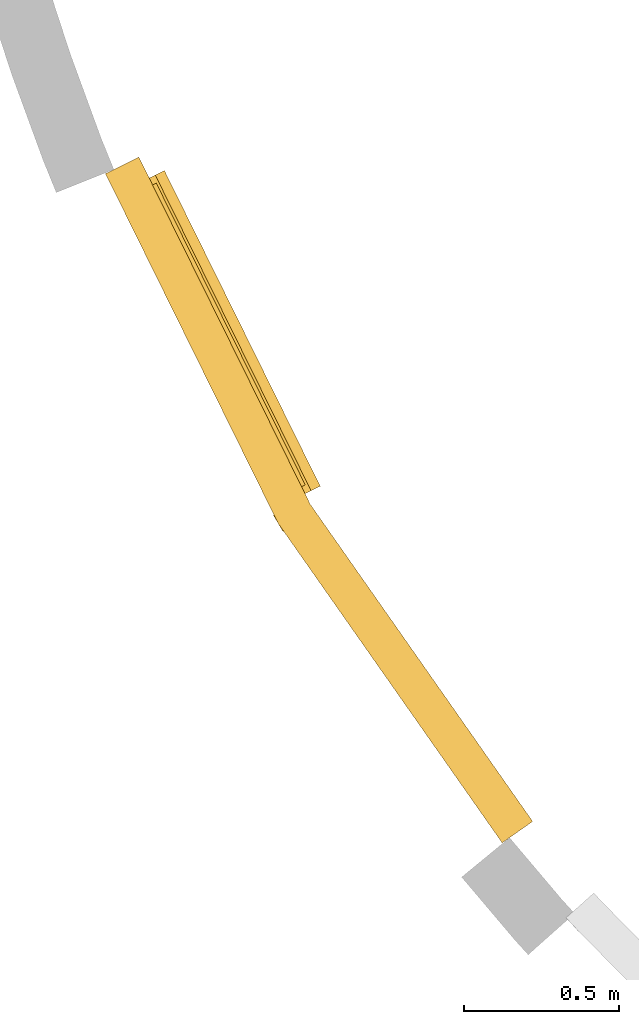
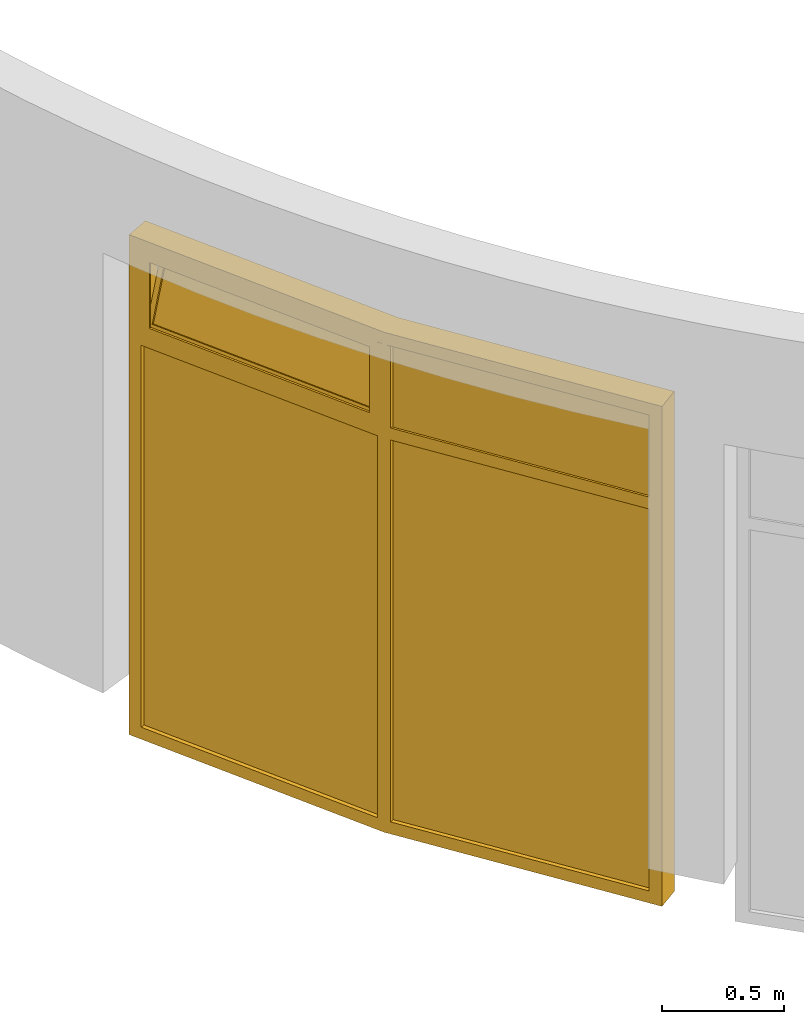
# One storey, part 3 of 7: 1 curtain wall.
"""IFC4 building model written with IfcOpenShell, lengths in millimetres."""

import ifcopenshell
import ifcopenshell.guid

model = None  # the IFC model being written
_history = None  # IfcOwnerHistory: only IFC2X3 demands one
_inside = {}  # id of a spatial element -> (the spatial element, [elements in it])
_under = {}  # id of a project, library or spatial element -> (it, [spatial elements below it])
_declared = {}  # id of a project -> (the project, [libraries it declares])
_typed = {}  # id of a type object -> (the type object, [elements of that type])
_made_of = {}  # id of a material, layer set ... -> (it, [elements and type objects made of it])


def new_model(schema):
    """Start an empty IFC model of exactly this schema.

    Asked for "IFC4X3", IfcOpenShell would pick the latest addendum, in which some entities
    have other attributes; the version numbers below select the first issue.
    IFC2X3 requires an IfcOwnerHistory on every rooted entity: one is made here for all.
    """
    global model, _history
    if schema == "IFC4X3":
        model = ifcopenshell.file(schema_version=(4, 3, 0, 0))
    else:
        model = ifcopenshell.file(schema=schema)
    _inside.clear()
    _under.clear()
    _declared.clear()
    _typed.clear()
    _made_of.clear()
    _history = None
    if model.schema == "IFC2X3":
        org = make("IfcOrganization", Name="unknown")
        user = make(
            "IfcPersonAndOrganization",
            ThePerson=make("IfcPerson", FamilyName="unknown"),
            TheOrganization=org,
        )
        app = make(
            "IfcApplication",
            ApplicationDeveloper=org,
            Version="unknown",
            ApplicationFullName="unknown",
            ApplicationIdentifier="unknown",
        )
        _history = make(
            "IfcOwnerHistory",
            OwningUser=user,
            OwningApplication=app,
            ChangeAction="ADDED",
            CreationDate=0,
        )
    return model


def make(cls, **values):
    """One entity of the class cls with the attributes given. An attribute that is None is left unset."""
    return model.create_entity(
        cls, **{name: value for name, value in values.items() if value is not None}
    )


def entity(cls, *values):
    """Any entity or typed value of the class cls, its attributes in the order of the schema. None: left unset."""
    e = model.create_entity(cls)
    for i, value in enumerate(values):
        if value is not None:
            e[i] = value
    return e


def rooted(cls, **values):
    """An entity with a GlobalId (a new one), such as an element, a storey or a relation."""
    return make(cls, GlobalId=ifcopenshell.guid.new(), OwnerHistory=_history, **values)


def si_unit(unit_type, name, prefix=None):
    """IfcSIUnit, for example si_unit("LENGTHUNIT", "METRE", prefix="MILLI")."""
    return make("IfcSIUnit", UnitType=unit_type, Prefix=prefix, Name=name)


def converted_unit(unit_type, name, factor, base, dimensions=None, offset=None):
    """IfcConversionBasedUnit, such as the inch: factor (a typed value) times the base unit."""
    return make(
        "IfcConversionBasedUnit"
        if offset is None
        else "IfcConversionBasedUnitWithOffset",
        ConversionOffset=offset,
        Dimensions=None
        if dimensions is None
        else entity("IfcDimensionalExponents", *dimensions),
        UnitType=unit_type,
        Name=name,
        ConversionFactor=make(
            "IfcMeasureWithUnit", ValueComponent=factor, UnitComponent=base
        ),
    )


def derived_unit(unit_type, elements):
    """IfcDerivedUnit: a product of units, each with its exponent."""
    return make(
        "IfcDerivedUnit",
        Elements=[
            make("IfcDerivedUnitElement", Unit=unit, Exponent=power)
            for unit, power in elements
        ],
        UnitType=unit_type,
    )


def assignment(units):
    """IfcUnitAssignment: the units of a project."""
    return None if units is None else make("IfcUnitAssignment", Units=units)


def point(xyz):
    """IfcCartesianPoint."""
    return None if xyz is None else make("IfcCartesianPoint", Coordinates=xyz)


def direction(xyz):
    """IfcDirection."""
    return None if xyz is None else make("IfcDirection", DirectionRatios=xyz)


def frame(location, z_axis=None, x_axis=None):
    """IfcAxis2Placement3D, a coordinate frame: its origin and axes. An axis left out is left unset."""
    return make(
        "IfcAxis2Placement3D",
        Location=point(location),
        Axis=direction(z_axis),
        RefDirection=direction(x_axis),
    )


def origin_with_axes():
    """The frame at (0, 0, 0) with the z axis (0, 0, 1) and the x axis (1, 0, 0) written out."""
    return frame((0.0, 0.0, 0.0), z_axis=(0.0, 0.0, 1.0), x_axis=(1.0, 0.0, 0.0))


def place(relative_to, where):
    """IfcLocalPlacement: puts the frame where relative to a parent placement (None: the world)."""
    return make(
        "IfcLocalPlacement", PlacementRelTo=relative_to, RelativePlacement=where
    )


def context(
    kind, dimensions, precision=None, world=None, true_north=None, identifier=None
):
    """IfcGeometricRepresentationContext, for example the 3D "Model" context."""
    return make(
        "IfcGeometricRepresentationContext",
        ContextIdentifier=identifier,
        ContextType=kind,
        CoordinateSpaceDimension=dimensions,
        Precision=precision,
        WorldCoordinateSystem=world,
        TrueNorth=true_north,
    )


def subcontext(parent, identifier, kind, view, scale=None):
    """IfcGeometricRepresentationSubContext, for example "Body" below "Model"."""
    return make(
        "IfcGeometricRepresentationSubContext",
        ContextIdentifier=identifier,
        ContextType=kind,
        ParentContext=parent,
        TargetScale=scale,
        TargetView=view,
    )


def project(units=None, contexts=None):
    """IfcProject with its units and contexts."""
    return rooted(
        "IfcProject",
        Name="project",
        RepresentationContexts=contexts,
        UnitsInContext=assignment(units),
    )


def spatial(cls, under=None, at=None, **own):
    """A site, building, storey or space (cls), placed at a placement, below another one or the project."""
    s = rooted(cls, ObjectPlacement=at, **own)
    if under is not None:
        _under.setdefault(under.id(), (under, []))[1].append(s)
    return s


def point_list(points):
    """IfcCartesianPointList2D or 3D."""
    cls = (
        "IfcCartesianPointList2D" if len(points[0]) == 2 else "IfcCartesianPointList3D"
    )
    return make(cls, CoordList=points)


def polygons(points, faces, closed=None, point_numbers=None):
    """IfcPolygonalFaceSet: a face is its outer loop, then its inner loops; points numbered from 1."""
    made = []
    for loops in faces:
        if len(loops) == 1:
            made.append(make("IfcIndexedPolygonalFace", CoordIndex=loops[0]))
        else:
            made.append(
                make(
                    "IfcIndexedPolygonalFaceWithVoids",
                    CoordIndex=loops[0],
                    InnerCoordIndices=loops[1:],
                )
            )
    return make(
        "IfcPolygonalFaceSet",
        Coordinates=point_list(points),
        Closed=closed,
        Faces=made,
        PnIndex=point_numbers,
    )


def shape(context_of_items, identifier, shape_type, items):
    """IfcShapeRepresentation: the items that make up one representation, for example the "Body"."""
    return make(
        "IfcShapeRepresentation",
        ContextOfItems=context_of_items,
        RepresentationIdentifier=identifier,
        RepresentationType=shape_type,
        Items=items,
    )


def material(Name=None, Category=None):
    """IfcMaterial."""
    return make("IfcMaterial", Name=Name, Category=Category)


def constituent(of_material, Name=None, Category=None, fraction=None):
    """IfcMaterialConstituent: one of the materials an element consists of."""
    return make(
        "IfcMaterialConstituent",
        Name=Name,
        Material=of_material,
        Fraction=fraction,
        Category=Category,
    )


def constituent_set(constituents=None, Name=None):
    """IfcMaterialConstituentSet."""
    return make(
        "IfcMaterialConstituentSet", Name=Name, MaterialConstituents=constituents
    )


def made_of(thing, what):
    """Note that an element or type object is made of a material, layer set ...; save() writes the relation."""
    if what is not None:
        _made_of.setdefault(what.id(), (what, []))[1].append(thing)
    return thing


def type_object(cls, material=None, **own):
    """A type object (cls), such as IfcWallType, which elements share."""
    return made_of(rooted(cls, **own), material)


def element(
    cls,
    number,
    at=None,
    inside=None,
    cuts=None,
    type_object=None,
    material=None,
    context=None,
    identifier="Body",
    shape_type=None,
    held_by="IfcProductDefinitionShape",
    body=None,
    shapes=None,
    **own,
):
    """One element of the class cls, such as IfcWall. Its Tag is "e" and its number.

    at: its placement. inside: the storey or other place that contains it. cuts: it is an
    opening in that element (IfcRelVoidsElement). A single representation is given by context,
    identifier, shape_type and body (its items); several are given by shapes. held_by: the class
    of the entity that holds the representations. save() writes the other relations.
    """
    e = rooted(cls, Tag="e%d" % number, ObjectPlacement=at, **own)
    if body is not None:
        shapes = [shape(context, identifier, shape_type, body)]
    if shapes is not None:
        e.Representation = make(held_by, Representations=shapes)
    if inside is not None:
        _inside.setdefault(inside.id(), (inside, []))[1].append(e)
    if cuts is not None:
        rooted(
            "IfcRelVoidsElement", RelatingBuildingElement=cuts, RelatedOpeningElement=e
        )
    if type_object is not None:
        _typed.setdefault(type_object.id(), (type_object, []))[1].append(e)
    return made_of(e, material)


def aggregate(whole, parts):
    """IfcRelAggregates: a whole, such as a stair, and the parts it consists of."""
    return rooted("IfcRelAggregates", RelatingObject=whole, RelatedObjects=parts)


def save(model, path):
    """Write the relations noted so far, then the file.

    IfcRelAggregates (storeys below a building ...), IfcRelContainedInSpatialStructure (elements
    in a storey), IfcRelDefinesByType, IfcRelAssociatesMaterial and IfcRelDeclares: one each for
    every whole, place, type object, material and project.
    """
    for whole, parts in _under.values():
        aggregate(whole, parts)
    for where, things in _inside.values():
        rooted(
            "IfcRelContainedInSpatialStructure",
            RelatedElements=things,
            RelatingStructure=where,
        )
    for kind, things in _typed.values():
        rooted("IfcRelDefinesByType", RelatedObjects=things, RelatingType=kind)
    for what, things in _made_of.values():
        rooted("IfcRelAssociatesMaterial", RelatedObjects=things, RelatingMaterial=what)
    for by, libraries in _declared.values():
        rooted("IfcRelDeclares", RelatingContext=by, RelatedDefinitions=libraries)
    model.write(path)


model = new_model("IFC4")

# Units and contexts
model_context = context("Model", 3, precision=0.01, world=origin_with_axes(), true_north=direction((0.0, 1.0)))
body_context = subcontext(model_context, "Body", "Model", "MODEL_VIEW")
ifc_project = project(units=[si_unit("LENGTHUNIT", "METRE", prefix="MILLI"), si_unit("AREAUNIT", "SQUARE_METRE"), si_unit("VOLUMEUNIT", "CUBIC_METRE"), converted_unit("PLANEANGLEUNIT", "DEGREE", entity("IfcPlaneAngleMeasure", 0.0174532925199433), si_unit("PLANEANGLEUNIT", "RADIAN"), dimensions=[0, 0, 0, 0, 0, 0, 0]), converted_unit("TIMEUNIT", "Year", entity("IfcTimeMeasure", 31557600.0), si_unit("TIMEUNIT", "SECOND"), dimensions=[0, 0, 1, 0, 0, 0, 0]), si_unit("MASSUNIT", "GRAM", prefix="KILO"), si_unit("THERMODYNAMICTEMPERATUREUNIT", "DEGREE_CELSIUS"), si_unit("LUMINOUSINTENSITYUNIT", "LUMEN"), si_unit("ENERGYUNIT", "JOULE", prefix="MEGA"), derived_unit("THERMALCONDUCTANCEUNIT", [(si_unit("POWERUNIT", "WATT"), 1), (si_unit("LENGTHUNIT", "METRE"), -1), (si_unit("THERMODYNAMICTEMPERATUREUNIT", "KELVIN"), -1)]), derived_unit("SPECIFICHEATCAPACITYUNIT", [(si_unit("ENERGYUNIT", "JOULE"), 1), (si_unit("MASSUNIT", "GRAM", prefix="KILO"), -1), (si_unit("THERMODYNAMICTEMPERATUREUNIT", "KELVIN"), -1)]), derived_unit("MASSDENSITYUNIT", [(si_unit("MASSUNIT", "GRAM", prefix="KILO"), 1), (si_unit("VOLUMEUNIT", "CUBIC_METRE"), -1)])], contexts=[model_context])

# Site, building, storey
site_placement = place(None, origin_with_axes())
site = spatial("IfcSite", under=ifc_project, at=site_placement, Name="Exteriér", CompositionType="ELEMENT")
building_placement = place(site_placement, origin_with_axes())
building = spatial("IfcBuilding", under=site, at=building_placement, Name="Univerzitní lezecké centrum", CompositionType="ELEMENT")
storey_placement = place(building_placement, origin_with_axes())
storey = spatial("IfcBuildingStorey", under=building, at=storey_placement, Name="1.NP", CompositionType="ELEMENT", Elevation=0.0)

# Curtain wall
ifc_material_1 = material(Name="Sklo")
ifc_constituent_1 = constituent(ifc_material_1, Name="Sklo 1")
ifc_constituent_2 = constituent(ifc_material_1, Name="Sklo 2")
ifc_constituent_3 = constituent(ifc_material_1, Name="Sklo 3")
ifc_material_2 = material(Name="Hliník")
ifc_constituent_4 = constituent(ifc_material_2, Name="Hliník 1")
ifc_constituent_5 = constituent(ifc_material_1, Name="Sklo 4")
ifc_constituent_6 = constituent(ifc_material_2, Name="Hliník 2")
ifc_constituent_7 = constituent(ifc_material_2, Name="Hliník 3")
ifc_constituent_8 = constituent(ifc_material_2, Name="Hliník 4")
ifc_constituent_9 = constituent(ifc_material_2, Name="Hliník 5")
ifc_constituent_10 = constituent(ifc_material_2, Name="Hliník 6")
ifc_constituent_11 = constituent(ifc_material_2, Name="Hliník 7")
ifc_constituent_12 = constituent(ifc_material_2, Name="Hliník 8")
ifc_constituent_13 = constituent(ifc_material_2, Name="Hliník 9")
ifc_constituent_14 = constituent(ifc_material_2, Name="Hliník 10")
ifc_constituent_15 = constituent(ifc_material_2, Name="Hliník 11")
ifc_constituent_16 = constituent(ifc_material_2, Name="Hliník 12")
ifc_constituent_17 = constituent(ifc_material_2, Name="Hliník 13")
ifc_constituent_set = constituent_set(constituents=[ifc_constituent_1, ifc_constituent_2, ifc_constituent_3, ifc_constituent_4, ifc_constituent_5, ifc_constituent_6, ifc_constituent_7, ifc_constituent_8, ifc_constituent_9, ifc_constituent_10, ifc_constituent_11, ifc_constituent_12, ifc_constituent_13, ifc_constituent_14, ifc_constituent_15, ifc_constituent_16, ifc_constituent_17])
curtain_wall_type = type_object("IfcCurtainWallType", Name="Typ lehkého obvodového pláště", PredefinedType="NOTDEFINED")
curtain_wall_placement = place(storey_placement, frame((-4244.886192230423, -4993.536299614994, 0.0), z_axis=(0.0, 0.0, 1.0), x_axis=(1.0, 0.0, 0.0)))
element("IfcCurtainWall", 1, at=curtain_wall_placement, inside=storey, type_object=curtain_wall_type, material=ifc_constituent_set, Name="LOP01", PredefinedType="NOTDEFINED", context=body_context, shape_type="Tessellation", body=[
    polygons([(-351.6964400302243, 518.8852011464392, 2469.999973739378), (-368.070827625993, 507.4013241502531, 2469.999973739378), (334.521174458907, -494.3956968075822, 2469.999973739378), (350.8955620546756, -482.9118198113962, 2469.999973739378), (-351.6964400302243, 518.8852011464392, 2002.999991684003), (-368.070827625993, 507.4013241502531, 2002.999991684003), (334.521174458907, -494.3956968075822, 2002.999991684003), (350.8955620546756, -482.9118198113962, 2002.999991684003)], [[[1, 2, 3, 4]], [[5, 6, 2, 1]], [[2, 6, 7, 3]], [[4, 3, 7, 8]], [[1, 4, 8, 5]], [[8, 7, 6, 5]]], closed=True),
    polygons([(-351.6964423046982, 518.8852043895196, 1997.00000596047), (-368.0708299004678, 507.4013273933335, 1997.00000596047), (334.5211696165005, -494.3956899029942, 1997.00000596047), (350.8955572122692, -482.9118129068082, 1997.00000596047), (-351.6964423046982, 518.8852043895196, 29.99999999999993), (-368.0708299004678, 507.4013273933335, 29.99999999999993), (334.5211696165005, -494.3956899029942, 30.0), (350.8955572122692, -482.9118129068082, 30.0)], [[[1, 2, 3, 4]], [[5, 6, 2, 1]], [[2, 6, 7, 3]], [[4, 3, 7, 8]], [[1, 4, 8, 5]], [[8, 7, 6, 5]]], closed=True),
    polygons([(-892.6787383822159, 1614.910149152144, 1997.00000596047), (-910.6123102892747, 1606.056505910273, 1997.00000596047), (-368.9399368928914, 508.8674513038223, 1997.00000596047), (-351.0063649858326, 517.7210945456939, 1997.00000596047), (-892.6787383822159, 1614.910149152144, 29.99999999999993), (-910.6123102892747, 1606.056505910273, 29.99999999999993), (-368.9399368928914, 508.8674513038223, 29.99999999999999), (-351.0063649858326, 517.7210945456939, 29.99999999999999)], [[[1, 2, 3, 4]], [[5, 6, 2, 1]], [[2, 6, 7, 3]], [[4, 3, 7, 8]], [[1, 4, 8, 5]], [[8, 7, 6, 5]]], closed=True),
    polygons([(-391.1871885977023, 531.340989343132, 2029.9999915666), (-400.1539745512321, 526.9141677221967, 2029.9999915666), (-915.2654111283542, 1570.302492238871, 2029.9999915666), (-906.2986251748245, 1574.729313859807, 2029.9999915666), (-408.8944750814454, 567.2081331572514, 2069.9999915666), (-417.8612610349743, 562.7813115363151, 2069.9999915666), (-897.5581246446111, 1534.435348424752, 2069.9999915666), (-888.5913386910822, 1538.862170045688, 2069.9999915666)], [[[1, 2, 3, 4]], [[5, 6, 2, 1]], [[2, 6, 7, 3]], [[4, 3, 7, 8]], [[1, 4, 8, 5]], [[8, 7, 6, 5]]], closed=True),
    polygons([(-906.2986251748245, 1574.729313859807, 2029.9999915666), (-915.2654111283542, 1570.302492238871, 2029.9999915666), (-915.2654111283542, 1570.302492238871, 2439.999963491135), (-906.2986251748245, 1574.729313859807, 2439.999963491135), (-888.5913386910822, 1538.862170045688, 2069.9999915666), (-897.5581246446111, 1534.435348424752, 2069.9999915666), (-897.5581246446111, 1534.435348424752, 2399.999963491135), (-888.5913386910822, 1538.862170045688, 2399.999963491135)], [[[1, 2, 3, 4]], [[5, 6, 2, 1]], [[2, 6, 7, 3]], [[4, 3, 7, 8]], [[1, 4, 8, 5]], [[8, 7, 6, 5]]], closed=True),
    polygons([(-391.1871885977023, 531.340989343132, 2439.999963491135), (-400.1539745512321, 526.9141677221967, 2439.999963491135), (-417.8612610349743, 562.7813115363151, 2399.999963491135), (-408.8944750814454, 567.2081331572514, 2399.999963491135), (-906.2986251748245, 1574.729313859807, 2439.999963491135), (-915.2654111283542, 1570.302492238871, 2439.999963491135), (-897.5581246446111, 1534.435348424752, 2399.999963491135), (-888.5913386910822, 1538.862170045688, 2399.999963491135)], [[[1, 2, 3, 4]], [[5, 6, 2, 1]], [[2, 6, 7, 3]], [[4, 3, 7, 8]], [[1, 4, 8, 5]], [[8, 7, 6, 5]]], closed=True),
    polygons([(-391.1871885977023, 531.340989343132, 2029.9999915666), (-400.1539745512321, 526.9141677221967, 2029.9999915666), (-417.8612610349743, 562.7813115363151, 2069.9999915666), (-408.8944750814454, 567.2081331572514, 2069.9999915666), (-391.1871885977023, 531.340989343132, 2439.999963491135), (-400.1539745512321, 526.9141677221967, 2439.999963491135), (-417.8612610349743, 562.7813115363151, 2399.999963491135), (-408.8944750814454, 567.2081331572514, 2399.999963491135)], [[[1, 2, 3, 4]], [[5, 6, 2, 1]], [[2, 6, 7, 3]], [[4, 3, 7, 8]], [[1, 4, 8, 5]], [[8, 7, 6, 5]]], closed=True),
    polygons([(-364.2868307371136, 544.6214542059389, 2029.9999915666), (-391.1871885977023, 531.340989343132, 2029.9999915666), (-906.2986251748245, 1574.729313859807, 2029.9999915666), (-879.3982673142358, 1588.009778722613, 2029.9999915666), (-370.9270631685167, 558.0716331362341, 2044.9999915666), (-397.8274210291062, 544.7911682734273, 2044.9999915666), (-899.6583927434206, 1561.279134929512, 2044.9999915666), (-872.7580348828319, 1574.559599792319, 2044.9999915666)], [[[1, 2, 3, 4]], [[5, 6, 2, 1]], [[2, 6, 7, 3]], [[4, 3, 7, 8]], [[1, 4, 8, 5]], [[8, 7, 6, 5]]], closed=True),
    polygons([(-879.3982673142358, 1588.009778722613, 2029.9999915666), (-906.2986251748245, 1574.729313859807, 2029.9999915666), (-906.2986251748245, 1574.729313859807, 2439.999963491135), (-879.3982673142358, 1588.009778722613, 2439.999963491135), (-872.7580348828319, 1574.559599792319, 2044.9999915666), (-899.6583927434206, 1561.279134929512, 2044.9999915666), (-899.6583927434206, 1561.279134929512, 2424.999963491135), (-872.7580348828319, 1574.559599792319, 2424.999963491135)], [[[1, 2, 3, 4]], [[5, 6, 2, 1]], [[2, 6, 7, 3]], [[4, 3, 7, 8]], [[1, 4, 8, 5]], [[8, 7, 6, 5]]], closed=True),
    polygons([(-364.2868307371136, 544.6214542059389, 2439.999963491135), (-391.1871885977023, 531.340989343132, 2439.999963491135), (-397.8274210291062, 544.7911682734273, 2424.999963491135), (-370.9270631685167, 558.0716331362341, 2424.999963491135), (-879.3982673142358, 1588.009778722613, 2439.999963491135), (-906.2986251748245, 1574.729313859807, 2439.999963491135), (-899.6583927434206, 1561.279134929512, 2424.999963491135), (-872.7580348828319, 1574.559599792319, 2424.999963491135)], [[[1, 2, 3, 4]], [[5, 6, 2, 1]], [[2, 6, 7, 3]], [[4, 3, 7, 8]], [[1, 4, 8, 5]], [[8, 7, 6, 5]]], closed=True),
    polygons([(-364.2868307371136, 544.6214542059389, 2029.9999915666), (-391.1871885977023, 531.340989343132, 2029.9999915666), (-397.8274210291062, 544.7911682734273, 2044.9999915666), (-370.9270631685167, 558.0716331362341, 2044.9999915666), (-364.2868307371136, 544.6214542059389, 2439.999963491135), (-391.1871885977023, 531.340989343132, 2439.999963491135), (-397.8274210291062, 544.7911682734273, 2424.999963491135), (-370.9270631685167, 558.0716331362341, 2424.999963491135)], [[[1, 2, 3, 4]], [[5, 6, 2, 1]], [[2, 6, 7, 3]], [[4, 3, 7, 8]], [[1, 4, 8, 5]], [[8, 7, 6, 5]]], closed=True),
    polygons([(-351.0063613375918, 517.7210871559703, 2002.999991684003), (-368.9399332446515, 508.8674439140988, 2002.999991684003), (-910.6123086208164, 1606.056502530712, 2002.999991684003), (-892.6787367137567, 1614.910145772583, 2002.999991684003), (-364.2868307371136, 544.6214542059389, 2029.9999915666), (-382.2204026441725, 535.7678109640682, 2029.9999915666), (-897.3318392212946, 1579.156135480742, 2029.9999915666), (-879.3982673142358, 1588.009778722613, 2029.9999915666)], [[[1, 2, 3, 4]], [[5, 6, 2, 1]], [[2, 6, 7, 3]], [[4, 3, 7, 8]], [[1, 4, 8, 5]], [[8, 7, 6, 5]]], closed=True),
    polygons([(-892.6787367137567, 1614.910145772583, 2002.999991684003), (-910.6123086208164, 1606.056502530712, 2002.999991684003), (-910.6123086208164, 1606.056502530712, 2469.999973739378), (-892.6787367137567, 1614.910145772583, 2469.999973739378), (-879.3982673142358, 1588.009778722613, 2029.9999915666), (-897.3318392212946, 1579.156135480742, 2029.9999915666), (-897.3318392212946, 1579.156135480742, 2439.999963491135), (-879.3982673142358, 1588.009778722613, 2439.999963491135)], [[[1, 2, 3, 4]], [[5, 6, 2, 1]], [[2, 6, 7, 3]], [[4, 3, 7, 8]], [[1, 4, 8, 5]], [[8, 7, 6, 5]]], closed=True),
    polygons([(-892.6787367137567, 1614.910145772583, 2469.999973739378), (-910.6123086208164, 1606.056502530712, 2469.999973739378), (-368.9399332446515, 508.8674439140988, 2469.999973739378), (-351.0063613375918, 517.7210871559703, 2469.999973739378), (-879.3982673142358, 1588.009778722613, 2439.999963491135), (-897.3318392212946, 1579.156135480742, 2439.999963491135), (-382.2204026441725, 535.7678109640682, 2439.999963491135), (-364.2868307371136, 544.6214542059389, 2439.999963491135)], [[[1, 2, 3, 4]], [[5, 6, 2, 1]], [[2, 6, 7, 3]], [[4, 3, 7, 8]], [[1, 4, 8, 5]], [[8, 7, 6, 5]]], closed=True),
    polygons([(-351.0063613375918, 517.7210871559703, 2469.999973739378), (-368.9399332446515, 508.8674439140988, 2469.999973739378), (-368.9399332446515, 508.8674439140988, 2002.999991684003), (-351.0063613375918, 517.7210871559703, 2002.999991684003), (-364.2868307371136, 544.6214542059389, 2439.999963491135), (-382.2204026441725, 535.7678109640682, 2439.999963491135), (-382.2204026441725, 535.7678109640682, 2029.9999915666), (-364.2868307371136, 544.6214542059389, 2029.9999915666)], [[[1, 2, 3, 4]], [[5, 6, 2, 1]], [[2, 6, 7, 3]], [[4, 3, 7, 8]], [[1, 4, 8, 5]], [[8, 7, 6, 5]]], closed=True),
    polygons([(-399.6051314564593, 571.7941986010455, 2078.752911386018), (-298.4000333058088, 621.7582458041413, 2388.85144986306), (-268.9089542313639, 636.3177264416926, 2376.880744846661), (-370.1140523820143, 586.353679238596, 2066.782206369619), (-396.2051309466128, 545.5920783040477, 2055.26059586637), (-279.6659257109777, 603.1264363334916, 2412.343765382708), (-250.1748466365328, 617.685916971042, 2400.373060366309), (-366.7140518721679, 560.1515589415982, 2043.289890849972)], [[[1, 2, 3, 4]], [[1, 5, 6, 2]], [[2, 6, 7, 3]], [[4, 3, 7, 8]], [[5, 1, 4, 8]], [[6, 5, 8, 7]]], closed=True),
    polygons([(-898.036102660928, 1562.080044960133, 2055.26059586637), (-781.4968974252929, 1619.614402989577, 2412.343765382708), (-752.005818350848, 1634.173883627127, 2400.373060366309), (-868.5450235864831, 1576.639525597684, 2043.289890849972), (-879.301995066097, 1543.448235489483, 2078.752911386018), (-778.0968969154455, 1593.412282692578, 2388.85144986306), (-748.6058178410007, 1607.971763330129, 2376.880744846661), (-849.810915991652, 1558.007716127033, 2066.782206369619)], [[[1, 2, 3, 4]], [[1, 5, 6, 2]], [[2, 6, 7, 3]], [[4, 3, 7, 8]], [[5, 1, 4, 8]], [[6, 5, 8, 7]]], closed=True),
    polygons([(-898.036102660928, 1562.080044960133, 2055.26059586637), (-879.301995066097, 1543.448235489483, 2078.752911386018), (-849.810915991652, 1558.007716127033, 2066.782206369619), (-868.5450235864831, 1576.639525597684, 2043.289890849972), (-396.2051309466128, 545.5920783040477, 2055.26059586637), (-399.6051314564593, 571.7941986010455, 2078.752911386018), (-370.1140523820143, 586.353679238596, 2066.782206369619), (-366.7140518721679, 560.1515589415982, 2043.289890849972)], [[[1, 2, 3, 4]], [[1, 5, 6, 2]], [[2, 6, 7, 3]], [[4, 3, 7, 8]], [[5, 1, 4, 8]], [[6, 5, 8, 7]]], closed=True),
    polygons([(-279.6659257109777, 603.1264363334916, 2412.343765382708), (-298.4000333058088, 621.7582458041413, 2388.85144986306), (-268.9089542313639, 636.3177264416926, 2376.880744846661), (-250.1748466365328, 617.685916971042, 2400.373060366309), (-781.4968974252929, 1619.614402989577, 2412.343765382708), (-778.0968969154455, 1593.412282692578, 2388.85144986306), (-748.6058178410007, 1607.971763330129, 2376.880744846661), (-752.005818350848, 1634.173883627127, 2400.373060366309)], [[[1, 2, 3, 4]], [[1, 5, 6, 2]], [[2, 6, 7, 3]], [[4, 3, 7, 8]], [[5, 1, 4, 8]], [[6, 5, 8, 7]]], closed=True),
    polygons([(-391.1791088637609, 575.9540502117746, 2075.332709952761), (-870.8759724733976, 1547.608087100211, 2075.332709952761), (-857.39433632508, 1554.263849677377, 2069.86038765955), (-377.6974727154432, 582.6098127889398, 2069.86038765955), (-289.9740107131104, 625.9180974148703, 2385.431248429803), (-769.6708743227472, 1597.572134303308, 2385.431248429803), (-756.1892381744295, 1604.227896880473, 2379.958926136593), (-276.4923745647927, 632.5738599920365, 2379.958926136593)], [[[1, 2, 3, 4]], [[1, 5, 6, 2]], [[2, 6, 7, 3]], [[4, 3, 7, 8]], [[5, 1, 4, 8]], [[6, 5, 8, 7]]], closed=True),
    polygons([(-351.3067770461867, 518.3295967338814, 29.99999999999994), (-351.3067770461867, 518.3295967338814, 59.99999999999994), (-282.2875621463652, 559.2437082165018, 59.99999999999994), (-282.2875621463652, 559.2437082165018, 0.0), (-385.8163844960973, 497.8725409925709, 0.0), (-385.8163844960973, 497.8725409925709, 59.99999999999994), (-368.561580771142, 508.1010688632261, 59.99999999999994), (-368.5615807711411, 508.1010688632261, 29.99999999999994), (350.8955572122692, -482.9118129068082, 30.0), (333.6697417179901, -458.3502315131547, 60.0), (399.1672921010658, -412.4147235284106, 60.0), (433.6189230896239, -461.5378863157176, 0.0), (335.3725975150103, -530.4411482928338, 0.0), (300.9209665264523, -481.3179855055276, 60.0), (317.2953541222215, -469.8341085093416, 60.0), (334.5211696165, -494.3956899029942, 30.0)], [[[1, 2, 3, 4, 5, 6, 7, 8]], [[1, 9, 10, 2]], [[10, 11, 3, 2]], [[3, 11, 12, 4]], [[4, 12, 13, 5]], [[5, 13, 14, 6]], [[7, 6, 14, 15]], [[15, 16, 8, 7]], [[8, 16, 9, 1]], [[9, 16, 15, 14, 13, 12, 11, 10]]], closed=True),
    polygons([(350.8955572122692, -482.9118129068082, 2000.0), (334.5211696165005, -494.3956899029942, 2000.0), (317.2953541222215, -469.8341085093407, 2000.0), (300.9209665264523, -481.3179855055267, 2000.0), (335.3725975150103, -530.4411482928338, 2000.0), (433.6189230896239, -461.5378863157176, 2000.0), (399.1672921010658, -412.4147235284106, 2000.0), (333.6697417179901, -458.3502315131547, 2000.0), (350.8955572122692, -482.9118129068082, 30.00000000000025), (334.5211696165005, -494.3956899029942, 30.00000000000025), (317.2953541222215, -469.8341085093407, 59.99999999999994), (300.9209665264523, -481.3179855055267, 59.99999999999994), (335.3725975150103, -530.4411482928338, 0.0), (433.6189230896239, -461.5378863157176, 0.0), (399.1672921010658, -412.4147235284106, 60.00000000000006), (333.6697417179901, -458.3502315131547, 59.99999999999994)], [[[1, 2, 3, 4, 5, 6, 7, 8]], [[2, 1, 9, 10]], [[11, 3, 2, 10]], [[3, 11, 12, 4]], [[5, 4, 12, 13]], [[6, 5, 13, 14]], [[7, 6, 14, 15]], [[16, 8, 7, 15]], [[1, 8, 16, 9]], [[9, 16, 15, 14, 13, 12, 11, 10]]], closed=True),
    polygons([(-351.3067770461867, 518.3295967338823, 60.00000000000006), (-334.030412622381, 493.695939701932, 60.00000000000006), (-334.030412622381, 493.695939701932, 2000.0), (-351.3067770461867, 518.3295967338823, 2000.0), (-364.6262132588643, 545.3088933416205, 60.00000000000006), (-349.4256024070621, 554.3197099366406, 60.00000000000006), (-318.8298017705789, 502.7067562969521, 60.00000000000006), (-318.8298017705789, 502.7067562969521, 2000.0), (-349.4256024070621, 554.3197099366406, 2000.0), (-364.6262132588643, 545.3088933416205, 2000.0)], [[[1, 2, 3, 4]], [[5, 6, 7, 2, 1]], [[3, 2, 7, 8]], [[4, 3, 8, 9, 10]], [[10, 5, 1, 4]], [[10, 9, 6, 5]], [[9, 8, 7, 6]]], closed=True),
    polygons([(-381.8810169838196, 535.0803654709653, 2000.0), (-401.0385560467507, 523.7239093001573, 2000.0), (-370.4427554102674, 472.1109556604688, 2000.0), (-351.2852163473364, 483.4674118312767, 2000.0), (-368.070823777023, 507.4013186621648, 2000.0), (-358.9434975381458, 513.8026018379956, 2000.0), (-368.9399362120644, 508.867449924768, 2000.0), (-381.8810169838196, 535.0803654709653, 59.99999999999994), (-401.0385560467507, 523.7239093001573, 59.99999999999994), (-370.4427554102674, 472.1109556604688, 59.99999999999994), (-351.2852163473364, 483.4674118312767, 59.99999999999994), (-368.070823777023, 507.4013186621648, 60.00000000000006), (-358.9434975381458, 513.8026018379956, 60.00000000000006), (-368.9399362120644, 508.867449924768, 60.00000000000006)], [[[1, 2, 3, 4, 5, 6, 7]], [[8, 9, 2, 1]], [[3, 2, 9, 10]], [[11, 4, 3, 10]], [[4, 11, 12, 5]], [[6, 5, 12, 13]], [[13, 14, 7, 6]], [[7, 14, 8, 1]], [[14, 13, 12, 11, 10, 9, 8]]], closed=True),
    polygons([(350.8955572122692, -482.9118129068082, 2469.999914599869), (334.5211696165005, -494.3956899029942, 2469.999914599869), (317.2953541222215, -469.8341085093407, 2439.999914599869), (300.9209665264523, -481.3179855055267, 2439.999914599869), (335.3725975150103, -530.4411482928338, 2499.999914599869), (433.6189230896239, -461.5378863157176, 2499.999914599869), (399.1672921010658, -412.4147235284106, 2439.999914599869), (333.6697417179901, -458.3502315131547, 2439.999914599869), (350.8955572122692, -482.9118129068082, 2000.0), (334.5211696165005, -494.3956899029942, 2000.0), (317.2953541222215, -469.8341085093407, 2000.0), (300.9209665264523, -481.3179855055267, 2000.0), (335.3725975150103, -530.4411482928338, 2000.0), (433.6189230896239, -461.5378863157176, 2000.0), (399.1672921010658, -412.4147235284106, 2000.0), (333.6697417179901, -458.3502315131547, 2000.0)], [[[1, 2, 3, 4, 5, 6, 7, 8]], [[2, 1, 9, 10]], [[11, 3, 2, 10]], [[3, 11, 12, 4]], [[13, 5, 4, 12]], [[14, 6, 5, 13]], [[15, 7, 6, 14]], [[16, 8, 7, 15]], [[1, 8, 16, 9]], [[9, 16, 15, 14, 13, 12, 11, 10]]], closed=True),
    polygons([(-351.3067770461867, 518.3295967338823, 2000.0), (-334.030412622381, 493.695939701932, 2000.0), (-334.030412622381, 493.695939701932, 2439.999966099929), (-351.3067770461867, 518.3295967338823, 2439.999966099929), (-364.6262132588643, 545.3088933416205, 2000.0), (-349.4256024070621, 554.3197099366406, 2000.0), (-318.8298017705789, 502.7067562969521, 2000.0), (-318.8298017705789, 502.7067562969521, 2439.999966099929), (-349.4256024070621, 554.3197099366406, 2439.999966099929), (-364.6262132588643, 545.3088933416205, 2439.999966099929)], [[[1, 2, 3, 4]], [[5, 6, 7, 2, 1]], [[3, 2, 7, 8]], [[4, 3, 8, 9, 10]], [[10, 5, 1, 4]], [[10, 9, 6, 5]], [[8, 7, 6, 9]]], closed=True),
    polygons([(-381.8810169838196, 535.0803654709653, 2439.999966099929), (-401.0385560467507, 523.7239093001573, 2439.999966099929), (-370.4427554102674, 472.1109556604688, 2439.999966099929), (-351.2852163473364, 483.4674118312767, 2439.999966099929), (-368.070823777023, 507.4013186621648, 2439.999966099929), (-358.9434975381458, 513.8026018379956, 2439.999966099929), (-368.9399362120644, 508.867449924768, 2439.999966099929), (-381.8810169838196, 535.0803654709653, 2000.0), (-401.0385560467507, 523.7239093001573, 2000.0), (-370.4427554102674, 472.1109556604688, 2000.0), (-351.2852163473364, 483.4674118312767, 2000.0), (-368.070823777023, 507.4013186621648, 2000.0), (-358.9434975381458, 513.8026018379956, 2000.0), (-368.9399362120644, 508.867449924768, 2000.0)], [[[1, 2, 3, 4, 5, 6, 7]], [[8, 9, 2, 1]], [[2, 9, 10, 3]], [[11, 4, 3, 10]], [[4, 11, 12, 5]], [[6, 5, 12, 13]], [[13, 14, 7, 6]], [[7, 14, 8, 1]], [[14, 13, 12, 11, 10, 9, 8]]], closed=True),
    polygons([(-325.3523134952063, 498.7379164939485, 1997.0), (-359.861920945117, 478.2808607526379, 1997.0), (-359.861920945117, 478.2808607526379, 1970.0), (-368.4893228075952, 473.1665968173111, 1970.0), (-368.4893228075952, 473.1665968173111, 2030.0), (-359.861920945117, 478.2808607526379, 2030.0), (-359.861920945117, 478.2808607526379, 2003.0), (-325.3523134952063, 498.7379164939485, 2003.0), (-325.3523134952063, 498.7379164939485, 2030.0), (-316.7249116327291, 503.8521804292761, 2030.0), (-316.7249116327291, 503.8521804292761, 1970.0), (-325.3523134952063, 498.7379164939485, 1970.0), (341.8569355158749, -452.6082930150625, 1997.0), (309.1081603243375, -475.5760470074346, 1997.0), (309.1081603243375, -475.5760470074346, 1970.0), (300.9209665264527, -481.3179855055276, 1970.0), (300.9209665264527, -481.3179855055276, 2030.0), (309.1081603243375, -475.5760470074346, 2030.0), (309.1081603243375, -475.5760470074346, 2003.0), (341.8569355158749, -452.6082930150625, 2003.0), (341.8569355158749, -452.6082930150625, 2030.0), (350.0441293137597, -446.8663545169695, 2030.0), (350.0441293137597, -446.8663545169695, 1970.0), (341.8569355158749, -452.6082930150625, 1970.0)], [[[1, 2, 3, 4, 5, 6, 7, 8, 9, 10, 11, 12]], [[1, 13, 14, 2]], [[2, 14, 15, 3]], [[15, 16, 4, 3]], [[5, 4, 16, 17]], [[18, 6, 5, 17]], [[6, 18, 19, 7]], [[8, 7, 19, 20]], [[9, 8, 20, 21]], [[9, 21, 22, 10]], [[11, 10, 22, 23]], [[12, 11, 23, 24]], [[12, 24, 13, 1]], [[14, 13, 24, 23, 22, 21, 20, 19, 18, 17, 16, 15]]], closed=True),
    polygons([(-351.3067770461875, 518.3295967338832, 2469.999966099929), (-368.5615807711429, 508.1010688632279, 2469.999966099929), (-368.5615807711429, 508.1010688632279, 2439.999966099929), (-385.8163844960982, 497.8725409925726, 2439.999966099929), (-385.8163844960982, 497.8725409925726, 2499.999966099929), (-282.2875621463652, 559.2437082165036, 2499.999966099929), (-282.2875621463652, 559.2437082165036, 2439.999966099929), (-351.3067770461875, 518.3295967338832, 2439.999966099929), (350.8955572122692, -482.9118129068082, 2469.999966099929), (334.5211696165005, -494.3956899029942, 2469.999966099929), (317.2953541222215, -469.8341085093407, 2439.999966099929), (300.9209665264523, -481.3179855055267, 2439.999966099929), (335.3725975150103, -530.4411482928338, 2499.999966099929), (433.6189230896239, -461.5378863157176, 2499.999966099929), (399.1672921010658, -412.4147235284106, 2439.999966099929), (333.6697417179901, -458.3502315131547, 2439.999966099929)], [[[1, 2, 3, 4, 5, 6, 7, 8]], [[2, 1, 9, 10]], [[11, 3, 2, 10]], [[3, 11, 12, 4]], [[5, 4, 12, 13]], [[6, 5, 13, 14]], [[7, 6, 14, 15]], [[16, 8, 7, 15]], [[1, 8, 16, 9]], [[9, 16, 15, 14, 13, 12, 11, 10]]], closed=True),
    polygons([(-892.6787329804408, 1614.910138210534, 2000.0), (-879.398268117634, 1588.009780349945, 2000.0), (-807.663980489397, 1623.424353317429, 2000.0), (-834.2249102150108, 1677.225069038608, 2000.0), (-941.8263416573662, 1624.10320958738, 2000.0), (-915.2654119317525, 1570.302493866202, 2000.0), (-897.3318400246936, 1579.156137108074, 2000.0), (-910.6123048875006, 1606.056494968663, 2000.0), (-892.6787329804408, 1614.910138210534, 30.00000000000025), (-879.398268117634, 1588.009780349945, 59.99999999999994), (-807.663980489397, 1623.424353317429, 60.00000000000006), (-834.2249102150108, 1677.225069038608, 0.0), (-941.8263416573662, 1624.10320958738, 0.0), (-915.2654119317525, 1570.302493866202, 59.99999999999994), (-897.3318400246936, 1579.156137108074, 59.99999999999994), (-910.6123048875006, 1606.056494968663, 30.00000000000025)], [[[1, 2, 3, 4, 5, 6, 7, 8]], [[1, 9, 10, 2]], [[10, 11, 3, 2]], [[3, 11, 12, 4]], [[4, 12, 13, 5]], [[5, 13, 14, 6]], [[7, 6, 14, 15]], [[15, 16, 8, 7]], [[8, 16, 9, 1]], [[9, 16, 15, 14, 13, 12, 11, 10]]], closed=True),
    polygons([(-892.6787329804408, 1614.910138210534, 2469.999966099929), (-879.398268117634, 1588.009780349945, 2439.999966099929), (-807.663980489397, 1623.424353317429, 2439.999966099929), (-834.2249102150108, 1677.225069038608, 2499.999966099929), (-941.8263416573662, 1624.10320958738, 2499.999966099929), (-915.2654119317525, 1570.302493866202, 2439.999966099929), (-897.3318400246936, 1579.156137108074, 2439.999966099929), (-910.6123048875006, 1606.056494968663, 2469.999966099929), (-892.6787329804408, 1614.910138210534, 2000.0), (-879.398268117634, 1588.009780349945, 2000.0), (-807.663980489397, 1623.424353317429, 2000.0), (-834.2249102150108, 1677.225069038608, 2000.0), (-941.8263416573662, 1624.10320958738, 2000.0), (-915.2654119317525, 1570.302493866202, 2000.0), (-897.3318400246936, 1579.156137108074, 2000.0), (-910.6123048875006, 1606.056494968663, 2000.0)], [[[1, 2, 3, 4, 5, 6, 7, 8]], [[1, 9, 10, 2]], [[10, 11, 3, 2]], [[11, 12, 4, 3]], [[12, 13, 5, 4]], [[13, 14, 6, 5]], [[7, 6, 14, 15]], [[15, 16, 8, 7]], [[8, 16, 9, 1]], [[9, 16, 15, 14, 13, 12, 11, 10]]], closed=True),
    polygons([(-892.6787329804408, 1614.910138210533, 29.99999999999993), (-879.398268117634, 1588.009780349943, 59.99999999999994), (-807.6639804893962, 1623.424353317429, 59.99999999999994), (-834.2249102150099, 1677.225069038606, 0.0), (-941.8263416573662, 1624.103209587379, 0.0), (-915.2654119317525, 1570.302493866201, 59.99999999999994), (-897.3318400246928, 1579.156137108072, 59.99999999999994), (-910.6123048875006, 1606.056494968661, 29.99999999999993), (-351.3067770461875, 518.3295967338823, 30.0), (-351.3067770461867, 518.3295967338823, 60.0), (-282.2875621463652, 559.2437082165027, 60.0), (-282.2875621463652, 559.2437082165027, 0.0), (-385.8163844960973, 497.8725409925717, 0.0), (-385.8163844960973, 497.8725409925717, 60.0), (-368.5615807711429, 508.1010688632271, 60.0), (-368.561580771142, 508.1010688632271, 30.0)], [[[1, 2, 3, 4, 5, 6, 7, 8]], [[1, 9, 10, 2]], [[10, 11, 3, 2]], [[3, 11, 12, 4]], [[4, 12, 13, 5]], [[5, 13, 14, 6]], [[7, 6, 14, 15]], [[15, 16, 8, 7]], [[8, 16, 9, 1]], [[9, 16, 15, 14, 13, 12, 11, 10]]], closed=True),
    polygons([(-870.4314821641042, 1592.43660197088, 1997.0), (-906.2986259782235, 1574.729315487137, 1997.0), (-906.2986259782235, 1574.729315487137, 1970.0), (-915.2654119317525, 1570.302493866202, 1970.0), (-915.2654119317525, 1570.302493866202, 2030.0), (-906.2986259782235, 1574.729315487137, 2030.0), (-906.2986259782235, 1574.729315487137, 2003.0), (-870.4314821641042, 1592.43660197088, 2003.0), (-870.4314821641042, 1592.43660197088, 2030.0), (-861.4646962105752, 1596.863423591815, 2030.0), (-861.4646962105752, 1596.863423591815, 1970.0), (-870.4314821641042, 1592.43660197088, 1970.0), (-356.0378971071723, 550.5023276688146, 1997.0), (-390.547504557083, 530.0452719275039, 1997.0), (-390.547504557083, 530.0452719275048, 1970.0), (-399.1749064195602, 524.9310079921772, 1970.0), (-399.1749064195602, 524.9310079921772, 2030.0), (-390.547504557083, 530.0452719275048, 2030.0), (-390.547504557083, 530.0452719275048, 2003.0), (-356.0378971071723, 550.5023276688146, 2003.0), (-356.0378971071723, 550.5023276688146, 2030.0), (-347.4104952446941, 555.6165916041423, 2030.0), (-347.4104952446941, 555.6165916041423, 1970.0), (-356.0378971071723, 550.5023276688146, 1970.0)], [[[1, 2, 3, 4, 5, 6, 7, 8, 9, 10, 11, 12]], [[1, 13, 14, 2]], [[2, 14, 15, 3]], [[15, 16, 4, 3]], [[5, 4, 16, 17]], [[18, 6, 5, 17]], [[6, 18, 19, 7]], [[8, 7, 19, 20]], [[9, 8, 20, 21]], [[9, 21, 22, 10]], [[11, 10, 22, 23]], [[12, 11, 23, 24]], [[12, 24, 13, 1]], [[14, 13, 24, 23, 22, 21, 20, 19, 18, 17, 16, 15]]], closed=True),
    polygons([(-892.6787329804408, 1614.910138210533, 2469.999966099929), (-910.6123048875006, 1606.056494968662, 2469.999966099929), (-897.3318400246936, 1579.156137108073, 2439.999966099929), (-915.2654119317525, 1570.302493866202, 2439.999966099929), (-941.8263416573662, 1624.103209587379, 2499.999966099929), (-834.2249102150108, 1677.225069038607, 2499.999966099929), (-807.663980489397, 1623.424353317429, 2439.999966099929), (-879.398268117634, 1588.009780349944, 2439.999966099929), (-351.3067770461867, 518.3295967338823, 2469.999966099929), (-368.561580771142, 508.1010688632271, 2469.999966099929), (-368.5615807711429, 508.1010688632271, 2439.999966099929), (-385.8163844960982, 497.8725409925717, 2439.999966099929), (-385.8163844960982, 497.8725409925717, 2499.999966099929), (-282.2875621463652, 559.2437082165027, 2499.999966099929), (-282.2875621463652, 559.2437082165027, 2439.999966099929), (-351.3067770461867, 518.3295967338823, 2439.999966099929)], [[[1, 2, 3, 4, 5, 6, 7, 8]], [[2, 1, 9, 10]], [[11, 3, 2, 10]], [[3, 11, 12, 4]], [[5, 4, 12, 13]], [[6, 5, 13, 14]], [[7, 6, 14, 15]], [[16, 8, 7, 15]], [[1, 8, 16, 9]], [[9, 16, 15, 14, 13, 12, 11, 10]]], closed=True),
])

save(model, "model.ifc")
